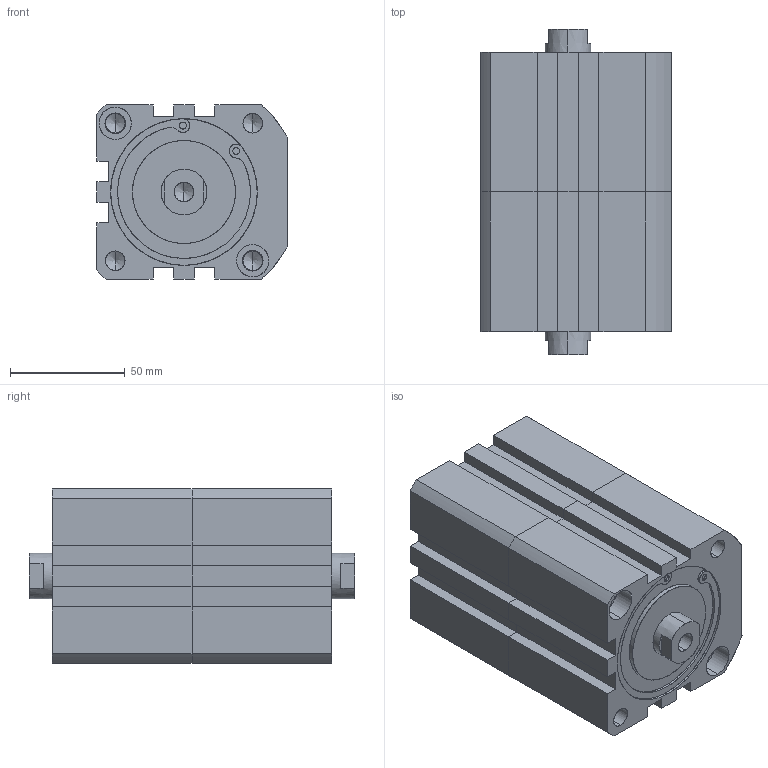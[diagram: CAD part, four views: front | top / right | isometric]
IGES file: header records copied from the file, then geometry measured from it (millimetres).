
Start section: SolidWorks IGES file using analytic representation for surfaces
Global section: file name: C:\Users\Toshiba\Desktop\XGD7-63-10-10(L).IGS; native system: SolidWorks 2014; preprocessor: SolidWorks 2014; author: Toshiba; date: 160805.094504; units: millimetre
Bounding box: 83 x 142 x 76 mm (x, y, z)
Surface area: 86323.6 mm2 (no closed solid volume)
Topology: 0 solids, 0 shells, 224 faces, 3742 edges, 3714 vertices
Faces by surface type: revolution 132, bspline 92
